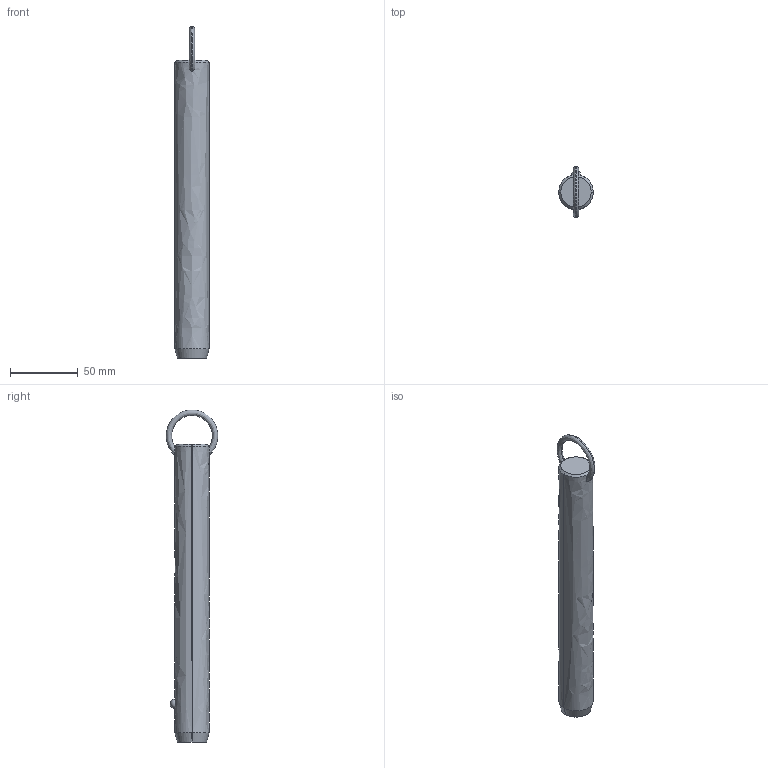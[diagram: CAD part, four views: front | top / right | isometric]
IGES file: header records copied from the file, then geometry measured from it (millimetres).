
Start section: SolidWorks IGES file using analytic representation for surfaces
Global section: file name: C:\Users\liam_\OneDrive\Documents\WORK\Work for WixRoyd\Job Files\J-00019 - Matt Davis CAD Checking\04. CAD Drawings\automotion20190605\P1250.2_v2\P1250.2_v2_20190729_IGES\P1250.100-690.igs; native system: SolidWorks 2017; preprocessor: SolidWorks 2017; author: liam_; date: 190730.174826; units: millimetre
Bounding box: 25.4 x 38.1 x 245.1 mm (x, y, z)
Surface area: 19304.6 mm2 (no closed solid volume)
Topology: 0 solids, 0 shells, 12 faces, 298 edges, 296 vertices
Faces by surface type: revolution 8, bspline 4
